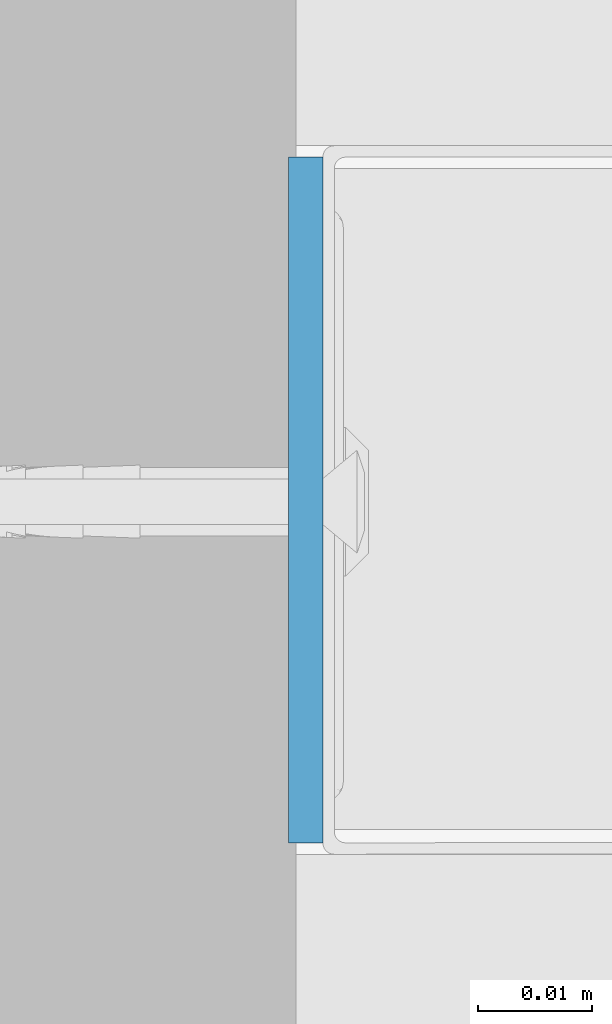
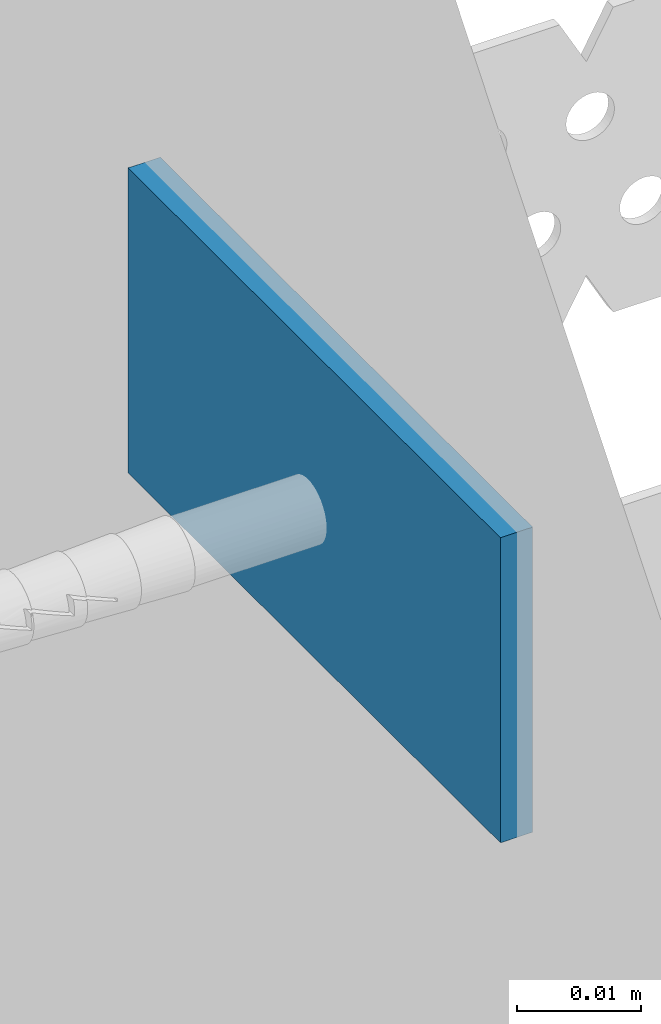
# One storey, part 43 of 61: 1 wall.
"""IFC2X3 building model written with IfcOpenShell, lengths in millimetres."""

import ifcopenshell
import ifcopenshell.guid

model = None  # the IFC model being written
_history = None  # IfcOwnerHistory: only IFC2X3 demands one
_inside = {}  # id of a spatial element -> (the spatial element, [elements in it])
_under = {}  # id of a project, library or spatial element -> (it, [spatial elements below it])
_declared = {}  # id of a project -> (the project, [libraries it declares])
_typed = {}  # id of a type object -> (the type object, [elements of that type])
_made_of = {}  # id of a material, layer set ... -> (it, [elements and type objects made of it])


def new_model(schema):
    """Start an empty IFC model of exactly this schema.

    Asked for "IFC4X3", IfcOpenShell would pick the latest addendum, in which some entities
    have other attributes; the version numbers below select the first issue.
    IFC2X3 requires an IfcOwnerHistory on every rooted entity: one is made here for all.
    """
    global model, _history
    if schema == "IFC4X3":
        model = ifcopenshell.file(schema_version=(4, 3, 0, 0))
    else:
        model = ifcopenshell.file(schema=schema)
    _inside.clear()
    _under.clear()
    _declared.clear()
    _typed.clear()
    _made_of.clear()
    _history = None
    if model.schema == "IFC2X3":
        org = make("IfcOrganization", Name="unknown")
        user = make(
            "IfcPersonAndOrganization",
            ThePerson=make("IfcPerson", FamilyName="unknown"),
            TheOrganization=org,
        )
        app = make(
            "IfcApplication",
            ApplicationDeveloper=org,
            Version="unknown",
            ApplicationFullName="unknown",
            ApplicationIdentifier="unknown",
        )
        _history = make(
            "IfcOwnerHistory",
            OwningUser=user,
            OwningApplication=app,
            ChangeAction="ADDED",
            CreationDate=0,
        )
    return model


def make(cls, **values):
    """One entity of the class cls with the attributes given. An attribute that is None is left unset."""
    return model.create_entity(
        cls, **{name: value for name, value in values.items() if value is not None}
    )


def rooted(cls, **values):
    """An entity with a GlobalId (a new one), such as an element, a storey or a relation."""
    return make(cls, GlobalId=ifcopenshell.guid.new(), OwnerHistory=_history, **values)


def si_unit(unit_type, name, prefix=None):
    """IfcSIUnit, for example si_unit("LENGTHUNIT", "METRE", prefix="MILLI")."""
    return make("IfcSIUnit", UnitType=unit_type, Prefix=prefix, Name=name)


def assignment(units):
    """IfcUnitAssignment: the units of a project."""
    return None if units is None else make("IfcUnitAssignment", Units=units)


def point(xyz):
    """IfcCartesianPoint."""
    return None if xyz is None else make("IfcCartesianPoint", Coordinates=xyz)


def direction(xyz):
    """IfcDirection."""
    return None if xyz is None else make("IfcDirection", DirectionRatios=xyz)


def frame(location, z_axis=None, x_axis=None):
    """IfcAxis2Placement3D, a coordinate frame: its origin and axes. An axis left out is left unset."""
    return make(
        "IfcAxis2Placement3D",
        Location=point(location),
        Axis=direction(z_axis),
        RefDirection=direction(x_axis),
    )


def origin_with_axes():
    """The frame at (0, 0, 0) with the z axis (0, 0, 1) and the x axis (1, 0, 0) written out."""
    return frame((0.0, 0.0, 0.0), z_axis=(0.0, 0.0, 1.0), x_axis=(1.0, 0.0, 0.0))


def place(relative_to, where):
    """IfcLocalPlacement: puts the frame where relative to a parent placement (None: the world)."""
    return make(
        "IfcLocalPlacement", PlacementRelTo=relative_to, RelativePlacement=where
    )


def context(
    kind, dimensions, precision=None, world=None, true_north=None, identifier=None
):
    """IfcGeometricRepresentationContext, for example the 3D "Model" context."""
    return make(
        "IfcGeometricRepresentationContext",
        ContextIdentifier=identifier,
        ContextType=kind,
        CoordinateSpaceDimension=dimensions,
        Precision=precision,
        WorldCoordinateSystem=world,
        TrueNorth=true_north,
    )


def subcontext(parent, identifier, kind, view, scale=None):
    """IfcGeometricRepresentationSubContext, for example "Body" below "Model"."""
    return make(
        "IfcGeometricRepresentationSubContext",
        ContextIdentifier=identifier,
        ContextType=kind,
        ParentContext=parent,
        TargetScale=scale,
        TargetView=view,
    )


def project(units=None, contexts=None):
    """IfcProject with its units and contexts."""
    return rooted(
        "IfcProject",
        Name="project",
        RepresentationContexts=contexts,
        UnitsInContext=assignment(units),
    )


def spatial(cls, under=None, at=None, **own):
    """A site, building, storey or space (cls), placed at a placement, below another one or the project."""
    s = rooted(cls, ObjectPlacement=at, **own)
    if under is not None:
        _under.setdefault(under.id(), (under, []))[1].append(s)
    return s


def faces_of(points, faces, orient=None, outer=None):
    """IfcFace entities. A face is a list of loops; a loop is a list of indices into points, from 0.

    orient and outer hold one flag for each loop. By default every Orientation is true, the
    first loop of a face is its IfcFaceOuterBound and the others are IfcFaceBound.
    """
    made = []
    for i, loops in enumerate(faces):
        bounds = []
        for j, loop in enumerate(loops):
            is_outer = j == 0 if outer is None else outer[i][j]
            bounds.append(
                make(
                    "IfcFaceOuterBound" if is_outer else "IfcFaceBound",
                    Bound=make("IfcPolyLoop", Polygon=[points[k] for k in loop]),
                    Orientation=True if orient is None else orient[i][j],
                )
            )
        made.append(make("IfcFace", Bounds=bounds))
    return made


def faceted_brep(points, faces, orient=None, outer=None, voids=None):
    """IfcFacetedBrep: a solid bounded by flat faces; with voids (closed shells), ...WithVoids."""
    shared = [point(p) for p in points]
    hull = make("IfcClosedShell", CfsFaces=faces_of(shared, faces, orient, outer))
    if voids is None:
        return make("IfcFacetedBrep", Outer=hull)
    return make(
        "IfcFacetedBrepWithVoids",
        Outer=hull,
        Voids=[
            make(cls, CfsFaces=faces_of(shared, fs, o, b)) for cls, fs, o, b in voids
        ],
    )


def shape(context_of_items, identifier, shape_type, items):
    """IfcShapeRepresentation: the items that make up one representation, for example the "Body"."""
    return make(
        "IfcShapeRepresentation",
        ContextOfItems=context_of_items,
        RepresentationIdentifier=identifier,
        RepresentationType=shape_type,
        Items=items,
    )


def material(Name=None, Category=None):
    """IfcMaterial."""
    return make("IfcMaterial", Name=Name, Category=Category)


def made_of(thing, what):
    """Note that an element or type object is made of a material, layer set ...; save() writes the relation."""
    if what is not None:
        _made_of.setdefault(what.id(), (what, []))[1].append(thing)
    return thing


def type_object(cls, material=None, **own):
    """A type object (cls), such as IfcWallType, which elements share."""
    return made_of(rooted(cls, **own), material)


def element(
    cls,
    number,
    at=None,
    inside=None,
    cuts=None,
    type_object=None,
    material=None,
    context=None,
    identifier="Body",
    shape_type=None,
    held_by="IfcProductDefinitionShape",
    body=None,
    shapes=None,
    **own,
):
    """One element of the class cls, such as IfcWall. Its Tag is "e" and its number.

    at: its placement. inside: the storey or other place that contains it. cuts: it is an
    opening in that element (IfcRelVoidsElement). A single representation is given by context,
    identifier, shape_type and body (its items); several are given by shapes. held_by: the class
    of the entity that holds the representations. save() writes the other relations.
    """
    e = rooted(cls, Tag="e%d" % number, ObjectPlacement=at, **own)
    if body is not None:
        shapes = [shape(context, identifier, shape_type, body)]
    if shapes is not None:
        e.Representation = make(held_by, Representations=shapes)
    if inside is not None:
        _inside.setdefault(inside.id(), (inside, []))[1].append(e)
    if cuts is not None:
        rooted(
            "IfcRelVoidsElement", RelatingBuildingElement=cuts, RelatedOpeningElement=e
        )
    if type_object is not None:
        _typed.setdefault(type_object.id(), (type_object, []))[1].append(e)
    return made_of(e, material)


def aggregate(whole, parts):
    """IfcRelAggregates: a whole, such as a stair, and the parts it consists of."""
    return rooted("IfcRelAggregates", RelatingObject=whole, RelatedObjects=parts)


def save(model, path):
    """Write the relations noted so far, then the file.

    IfcRelAggregates (storeys below a building ...), IfcRelContainedInSpatialStructure (elements
    in a storey), IfcRelDefinesByType, IfcRelAssociatesMaterial and IfcRelDeclares: one each for
    every whole, place, type object, material and project.
    """
    for whole, parts in _under.values():
        aggregate(whole, parts)
    for where, things in _inside.values():
        rooted(
            "IfcRelContainedInSpatialStructure",
            RelatedElements=things,
            RelatingStructure=where,
        )
    for kind, things in _typed.values():
        rooted("IfcRelDefinesByType", RelatedObjects=things, RelatingType=kind)
    for what, things in _made_of.values():
        rooted("IfcRelAssociatesMaterial", RelatedObjects=things, RelatingMaterial=what)
    for by, libraries in _declared.values():
        rooted("IfcRelDeclares", RelatingContext=by, RelatedDefinitions=libraries)
    model.write(path)


model = new_model("IFC2X3")

# Units and contexts
model_context = context("Model", 3, world=origin_with_axes())
body_context = subcontext(model_context, "Body", "Model", "MODEL_VIEW")
ifc_project = project(units=[si_unit("LENGTHUNIT", "METRE", prefix="MILLI"), si_unit("AREAUNIT", "SQUARE_METRE"), si_unit("VOLUMEUNIT", "CUBIC_METRE")], contexts=[model_context])

# Site, building, storey
site_placement = place(None, frame((2152.1410261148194, -2015.0250894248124, 57.61556563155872), z_axis=(0.0, 0.0, 1.0), x_axis=(-1.1102230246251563e-16, 1.0, 0.0)))
site = spatial("IfcSite", under=ifc_project, at=site_placement, Name="Default Site", CompositionType="ELEMENT")
building_placement = place(site_placement, origin_with_axes())
building = spatial("IfcBuilding", under=site, at=building_placement, Name="Default Building", CompositionType="ELEMENT")
storey_placement = place(building_placement, origin_with_axes())
storey = spatial("IfcBuildingStorey", under=building, at=storey_placement, Name="Default Building Storey", CompositionType="ELEMENT", Elevation=57.61556563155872)

# Wall
ifc_material = material(Name="Default")
wall_type = type_object("IfcWallType", Name="Taśma uszczelniająca piankowa RIGIPS szer.30mm#1", PredefinedType="NOTDEFINED")
wall_placement = place(storey_placement, frame((2808.0370864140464, 2019.7786110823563, 2405.887262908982), z_axis=(0.0, 0.0, 1.0), x_axis=(1.0, 0.0, 0.0)))
element("IfcWall", 1, at=wall_placement, inside=storey, type_object=wall_type, material=ifc_material, Name="Taśma uszczelniająca piankowa RIGIPS szer.30mm", context=body_context, shape_type="Brep", body=[
    faceted_brep([(59.99999865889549, 0.0, 4.511946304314e-12), (0.0, 0.0, 0.0), (1.0828671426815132e-12, -2.2379254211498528e-11, -29.999999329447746), (59.99999865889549, -2.2379254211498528e-11, -29.999999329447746), (0.0, 3.000000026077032, 0.0), (1.0828671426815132e-12, 3.000000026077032, -29.999999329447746), (59.99999865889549, 3.000000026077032, 0.0), (59.99999865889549, 3.000000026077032, -29.999999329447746)], [[[0, 1, 2, 3]], [[1, 4, 5, 2]], [[4, 6, 7, 5]], [[6, 0, 3, 7]], [[7, 3, 2, 5]], [[0, 6, 4, 1]]]),
])

save(model, "model.ifc")
